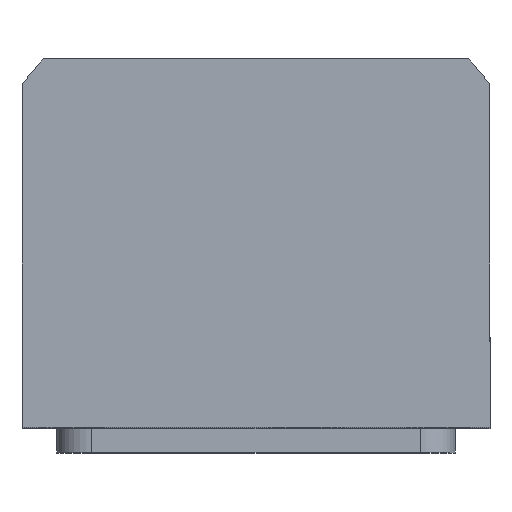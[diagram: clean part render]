
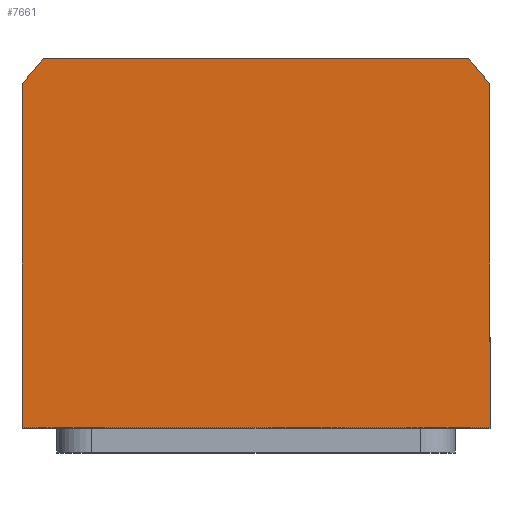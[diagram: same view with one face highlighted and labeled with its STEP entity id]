
A CAD part, top view. The second image highlights one B-rep face of the part: STEP entity #7661.
In plain terms, the highlighted planar face has unit normal (0, 0, 1).
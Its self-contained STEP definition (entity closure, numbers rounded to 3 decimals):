
#14 = EDGE_CURVE ( 'NONE', #4396, #10069, #4559, .T. ) ;
#23 = CARTESIAN_POINT ( 'NONE',  ( 42.688, 40., 70. ) ) ;
#799 = ORIENTED_EDGE ( 'NONE', *, *, #3486, .T. ) ;
#944 = DIRECTION ( 'NONE',  ( 1., 0., 0. ) ) ;
#983 = ORIENTED_EDGE ( 'NONE', *, *, #1551, .T. ) ;
#1076 = LINE ( 'NONE', #14211, #8130 ) ;
#1122 = CARTESIAN_POINT ( 'NONE',  ( -47., 34.832, 70. ) ) ;
#1412 = EDGE_LOOP ( 'NONE', ( #3143, #2425, #983, #13087, #799, #2272 ) ) ;
#1551 = EDGE_CURVE ( 'NONE', #10069, #7687, #11409, .T. ) ;
#2024 = VERTEX_POINT ( 'NONE', #1122 ) ;
#2272 = ORIENTED_EDGE ( 'NONE', *, *, #10938, .T. ) ;
#2360 = DIRECTION ( 'NONE',  ( 1., 0., 0. ) ) ;
#2425 = ORIENTED_EDGE ( 'NONE', *, *, #14, .T. ) ;
#2519 = CIRCLE ( 'NONE', #14472, 58.5 ) ;
#2734 = CARTESIAN_POINT ( 'NONE',  ( 47., 34.832, 70. ) ) ;
#3143 = ORIENTED_EDGE ( 'NONE', *, *, #3684, .T. ) ;
#3235 = DIRECTION ( 'NONE',  ( 0., 0., 1. ) ) ;
#3322 = VERTEX_POINT ( 'NONE', #13423 ) ;
#3392 = DIRECTION ( 'NONE',  ( 1., 0., 0. ) ) ;
#3440 = VECTOR ( 'NONE', #11351, 1000. ) ;
#3486 = EDGE_CURVE ( 'NONE', #3322, #2024, #2519, .T. ) ;
#3684 = EDGE_CURVE ( 'NONE', #11469, #4396, #1076, .T. ) ;
#4301 = LINE ( 'NONE', #11780, #5202 ) ;
#4396 = VERTEX_POINT ( 'NONE', #7973 ) ;
#4559 = LINE ( 'NONE', #14293, #10528 ) ;
#5202 = VECTOR ( 'NONE', #7277, 1000. ) ;
#5967 = DIRECTION ( 'NONE',  ( 1., 0., 0. ) ) ;
#6336 = EDGE_CURVE ( 'NONE', #7687, #3322, #4301, .T. ) ;
#6693 = LINE ( 'NONE', #13732, #3440 ) ;
#7277 = DIRECTION ( 'NONE',  ( -1., 0., 0. ) ) ;
#7341 = PLANE ( 'NONE',  #14700 ) ;
#7634 = CARTESIAN_POINT ( 'NONE',  ( -47., -34., 70. ) ) ;
#7661 = ADVANCED_FACE ( 'NONE', ( #8183 ), #7341, .T. ) ;
#7687 = VERTEX_POINT ( 'NONE', #23 ) ;
#7719 = AXIS2_PLACEMENT_3D ( 'NONE', #7949, #10324, #3392 ) ;
#7949 = CARTESIAN_POINT ( 'NONE',  ( 0., 0., 70. ) ) ;
#7973 = CARTESIAN_POINT ( 'NONE',  ( 47., -34., 70. ) ) ;
#8130 = VECTOR ( 'NONE', #2360, 1000. ) ;
#8183 = FACE_OUTER_BOUND ( 'NONE', #1412, .T. ) ;
#9097 = CARTESIAN_POINT ( 'NONE',  ( 0., 0., 70. ) ) ;
#9403 = DIRECTION ( 'NONE',  ( 0., 0., 1. ) ) ;
#10069 = VERTEX_POINT ( 'NONE', #2734 ) ;
#10324 = DIRECTION ( 'NONE',  ( 0., 0., 1. ) ) ;
#10528 = VECTOR ( 'NONE', #10538, 1000. ) ;
#10538 = DIRECTION ( 'NONE',  ( 0., 1., 0. ) ) ;
#10571 = CARTESIAN_POINT ( 'NONE',  ( 0., 0., 70. ) ) ;
#10938 = EDGE_CURVE ( 'NONE', #2024, #11469, #6693, .T. ) ;
#11351 = DIRECTION ( 'NONE',  ( 0., -1., 0. ) ) ;
#11409 = CIRCLE ( 'NONE', #7719, 58.5 ) ;
#11469 = VERTEX_POINT ( 'NONE', #7634 ) ;
#11780 = CARTESIAN_POINT ( 'NONE',  ( -42.688, 40., 70. ) ) ;
#13087 = ORIENTED_EDGE ( 'NONE', *, *, #6336, .T. ) ;
#13423 = CARTESIAN_POINT ( 'NONE',  ( -42.688, 40., 70. ) ) ;
#13732 = CARTESIAN_POINT ( 'NONE',  ( -47., -34., 70. ) ) ;
#14211 = CARTESIAN_POINT ( 'NONE',  ( 47., -34., 70. ) ) ;
#14293 = CARTESIAN_POINT ( 'NONE',  ( 47., 34.832, 70. ) ) ;
#14472 = AXIS2_PLACEMENT_3D ( 'NONE', #9097, #3235, #944 ) ;
#14700 = AXIS2_PLACEMENT_3D ( 'NONE', #10571, #9403, #5967 ) ;
